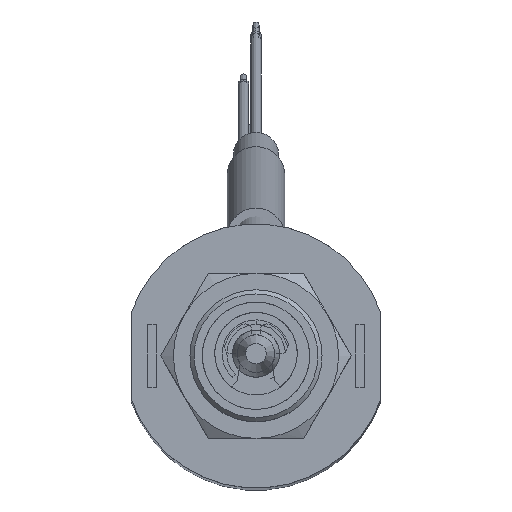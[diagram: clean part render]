
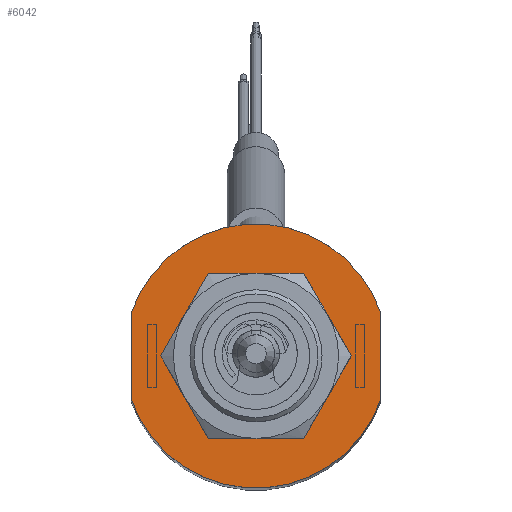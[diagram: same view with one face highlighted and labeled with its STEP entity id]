
A CAD part, top view. The second image highlights one B-rep face of the part: STEP entity #6042.
In plain terms, the highlighted planar face has unit normal (0, 0, 1).
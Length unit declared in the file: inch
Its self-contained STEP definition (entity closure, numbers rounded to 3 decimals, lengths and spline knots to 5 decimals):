
#351=FACE_BOUND('',#1044,.T.);
#445=PLANE('',#6770);
#665=FACE_OUTER_BOUND('',#1043,.T.);
#1043=EDGE_LOOP('',(#4367,#4368,#4369,#4370));
#1044=EDGE_LOOP('',(#4371,#4372));
#1430=LINE('',#9609,#1788);
#1433=LINE('',#9616,#1791);
#1788=VECTOR('',#7879,0.3937);
#1791=VECTOR('',#7888,0.3937);
#2130=CIRCLE('',#6758,0.17717);
#2131=CIRCLE('',#6759,0.17717);
#2135=CIRCLE('',#6765,0.31496);
#2136=CIRCLE('',#6768,0.31496);
#2543=VERTEX_POINT('',#9585);
#2544=VERTEX_POINT('',#9586);
#2550=VERTEX_POINT('',#9602);
#2551=VERTEX_POINT('',#9604);
#2552=VERTEX_POINT('',#9608);
#2553=VERTEX_POINT('',#9612);
#3212=EDGE_CURVE('',#2543,#2544,#2130,.T.);
#3213=EDGE_CURVE('',#2544,#2543,#2131,.T.);
#3221=EDGE_CURVE('',#2551,#2550,#2135,.T.);
#3223=EDGE_CURVE('',#2552,#2551,#1430,.T.);
#3225=EDGE_CURVE('',#2553,#2552,#2136,.T.);
#3227=EDGE_CURVE('',#2550,#2553,#1433,.T.);
#4367=ORIENTED_EDGE('',*,*,#3227,.T.);
#4368=ORIENTED_EDGE('',*,*,#3225,.T.);
#4369=ORIENTED_EDGE('',*,*,#3223,.T.);
#4370=ORIENTED_EDGE('',*,*,#3221,.T.);
#4371=ORIENTED_EDGE('',*,*,#3212,.T.);
#4372=ORIENTED_EDGE('',*,*,#3213,.T.);
#6042=ADVANCED_FACE('',(#665,#351),#445,.T.);
#6758=AXIS2_PLACEMENT_3D('',#9587,#7856,#7857);
#6759=AXIS2_PLACEMENT_3D('',#9588,#7858,#7859);
#6765=AXIS2_PLACEMENT_3D('',#9605,#7874,#7875);
#6768=AXIS2_PLACEMENT_3D('',#9613,#7883,#7884);
#6770=AXIS2_PLACEMENT_3D('',#9617,#7889,#7890);
#7856=DIRECTION('center_axis',(0.,0.,
-1.));
#7857=DIRECTION('ref_axis',(1.,0.,0.));
#7858=DIRECTION('center_axis',(0.,0.,
-1.));
#7859=DIRECTION('ref_axis',(1.,0.,0.));
#7874=DIRECTION('center_axis',(0.,0.,
1.));
#7875=DIRECTION('ref_axis',(-0.944,-0.331,0.));
#7879=DIRECTION('',(0.,-1.,0.));
#7883=DIRECTION('center_axis',(0.,0.,
1.));
#7884=DIRECTION('ref_axis',(0.944,0.331,0.));
#7888=DIRECTION('',(0.,1.,0.));
#7889=DIRECTION('center_axis',(0.,0.,
1.));
#7890=DIRECTION('ref_axis',(1.,0.,0.));
#9585=CARTESIAN_POINT('',(0.17717,0.,1.61417));
#9586=CARTESIAN_POINT('',(-0.17717,0.,1.61417));
#9587=CARTESIAN_POINT('Origin',(0.,0.,
1.61417));
#9588=CARTESIAN_POINT('Origin',(0.,0.,
1.61417));
#9602=CARTESIAN_POINT('',(0.29724,-0.10414,1.61417));
#9604=CARTESIAN_POINT('',(-0.29724,-0.10414,1.61417));
#9605=CARTESIAN_POINT('Origin',(0.,0.,
1.61417));
#9608=CARTESIAN_POINT('',(-0.29724,0.10414,1.61417));
#9609=CARTESIAN_POINT('',(-0.29724,0.10414,1.61417));
#9612=CARTESIAN_POINT('',(0.29724,0.10414,1.61417));
#9613=CARTESIAN_POINT('Origin',(0.,0.,
1.61417));
#9616=CARTESIAN_POINT('',(0.29724,-0.10414,1.61417));
#9617=CARTESIAN_POINT('Origin',(0.,0.,
1.61417));
